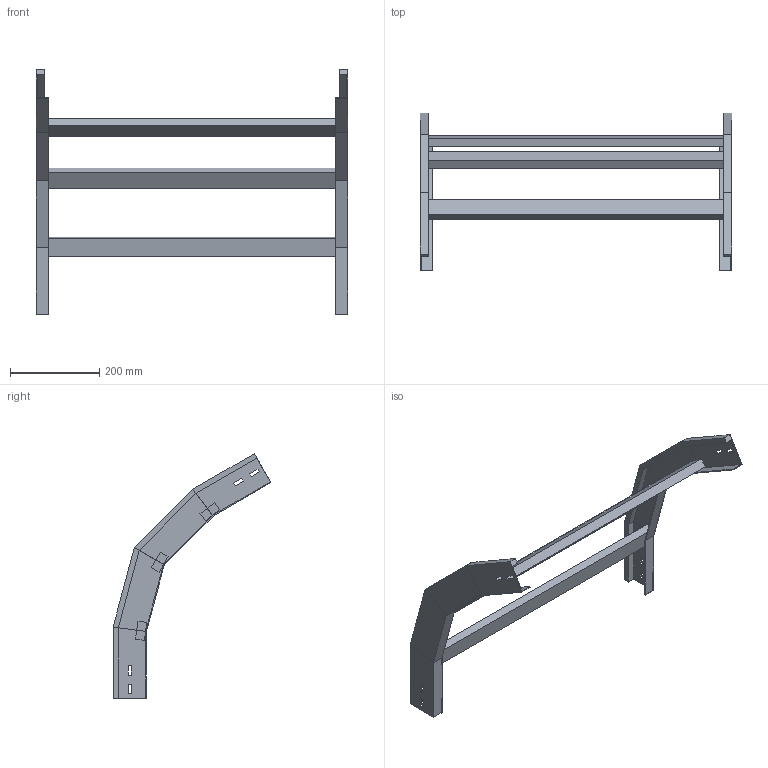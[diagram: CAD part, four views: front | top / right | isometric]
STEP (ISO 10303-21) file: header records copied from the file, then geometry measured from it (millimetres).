
FILE_DESCRIPTION (( 'STEP AP214' ), '1' );
FILE_NAME ('A2_41B3C700.step', '2025-02-21T15:00:12', ( '' ), ( '' ), 'SwSTEP 2.0', 'SolidWorks 2023', '' );
FILE_SCHEMA (( 'AUTOMOTIVE_DESIGN' ));
Length unit declared in the file: millimetre
Products named in the file (3): LONGH.DISCESA_60°_H75_R300; TRAVERSINO_700; A2_41B3C700
Assembly tree (5 placements, depth 2):
  A2_41B3C700
    LONGH.DISCESA_60°_H75_R300  x2
    TRAVERSINO_700  x3
Bounding box: 700 x 354.62 x 549.27 mm (x, y, z)
Volume: 2207267.7 mm3; surface area: 562530.3 mm2
Topology: 5 solids, 5 shells, 118 faces, 276 edges, 168 vertices
Faces by surface type: plane 118
Entity records: 1672 total; most frequent: CARTESIAN_POINT 276, ORIENTED_EDGE 264, DIRECTION 260, EDGE_CURVE 132, VECTOR 132, LINE 132, VERTEX_POINT 80, AXIS2_PLACEMENT_3D 64
